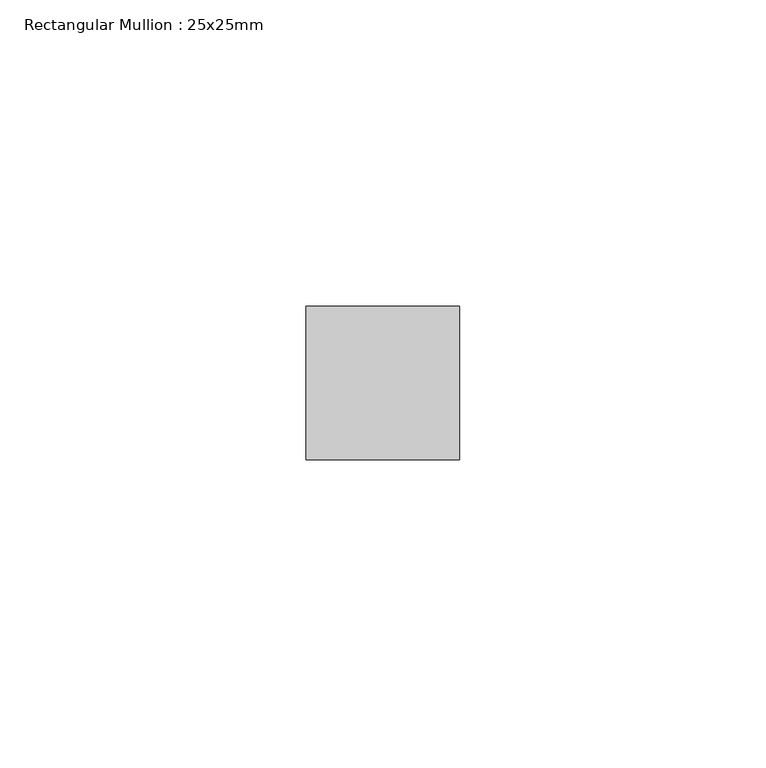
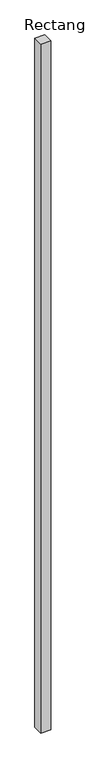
"""IFC4 building model written with IfcOpenShell, lengths in millimetres: member geometry, Rectangular Mullion : 25x25mm."""

from ifc_helpers import new_model, si_unit, frame, origin, place, context, project, spatial, polyline, outline, extrude, source, transform, mapped, element, save


def rectangular_mullion_25x25mm_4954c3ac(model_context):
    return source(origin(), model_context, "Body", "SweptSolid", [
        extrude(outline(polyline([(0.0, 0.5), (0.0, -24.5), (-25.0, -24.5), (-25.0, 0.5), (0.0, 0.5)])), frame((0.0, 0.0, -1810.0), z_axis=(0.0, 0.0, 1.0), x_axis=(1.0, 0.0, 0.0)), (0.0, 0.0, 1.0), 1810.0),
    ])


if __name__ == "__main__":
    model = new_model("IFC4")
    model_context = context("Model", 3, world=origin())
    ifc_project = project(units=[si_unit("LENGTHUNIT", "METRE", prefix="MILLI")], contexts=[model_context])
    site = spatial("IfcSite", under=ifc_project)
    building = spatial("IfcBuilding", under=site)
    placement = place(None, origin())
    rectangular_mullion_25x25mm_shape = rectangular_mullion_25x25mm_4954c3ac(model_context)
    element("IfcMember", 1, ObjectType="Rectangular Mullion : 25x25mm", at=placement, inside=building, context=model_context, shape_type="MappedRepresentation", body=[
        mapped(rectangular_mullion_25x25mm_shape, transform((0.0, 0.0, 0.0), x_axis=(1.0, 0.0, 0.0), y_axis=(0.0, 1.0, 0.0), z_axis=(0.0, 0.0, 1.0))),
    ])
    save(model, "model.ifc")
